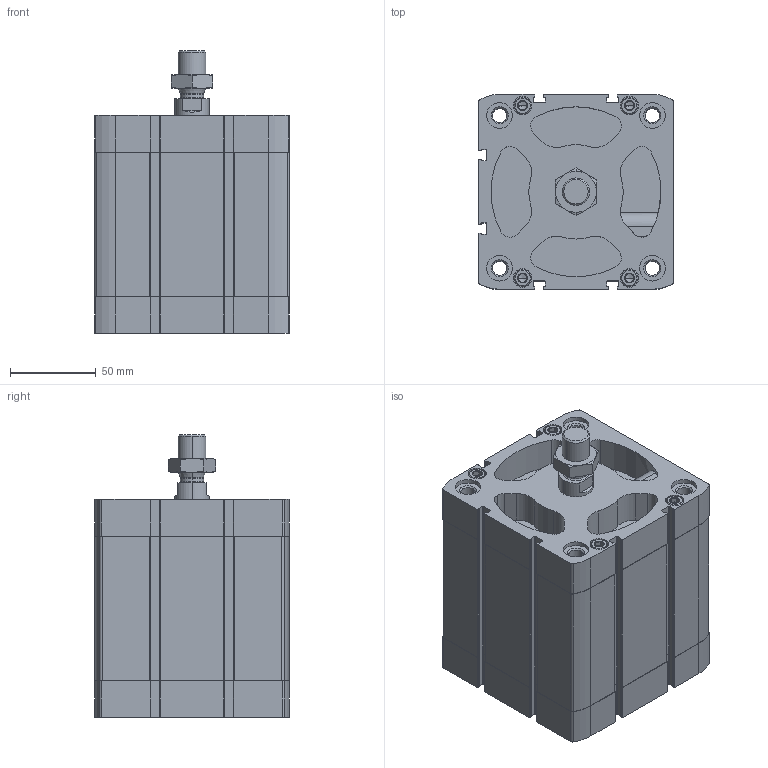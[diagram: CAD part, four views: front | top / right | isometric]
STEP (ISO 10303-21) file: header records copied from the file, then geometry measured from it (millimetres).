
FILE_DESCRIPTION (( 'STEP AP203' ), '1' );
FILE_NAME ('CCN100-60M.STEP', '2020-06-05T18:07:42', ( '' ), ( '' ), 'SwSTEP 2.0', 'SolidWorks 2019', '' );
FILE_SCHEMA (( 'CONFIG_CONTROL_DESIGN' ));
Length unit declared in the file: millimetre
Products named in the file (1): CCN100-60M
Bounding box: 113.5 x 113.5 x 164.8 mm (x, y, z)
Volume: 976295 mm3; surface area: 203459.4 mm2
Topology: 3 solids, 3 shells, 648 faces, 1673 edges, 1068 vertices
Faces by surface type: plane 292, cylinder 272, cone 80, torus 4
Entity records: 21246 total; most frequent: CARTESIAN_POINT 4984, DIRECTION 3541, ORIENTED_EDGE 3314, EDGE_CURVE 1657, AXIS2_PLACEMENT_3D 1319, VERTEX_POINT 1068, LINE 903, VECTOR 903
